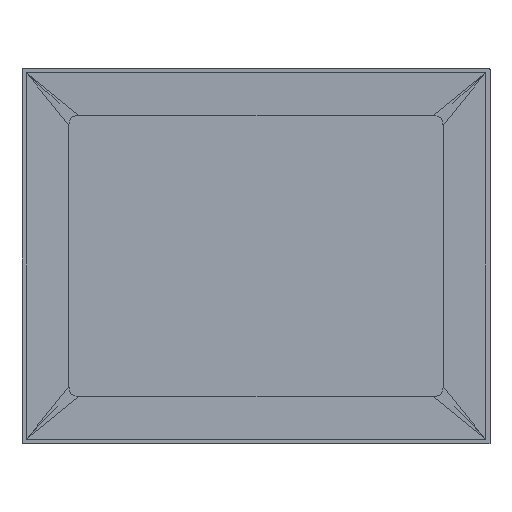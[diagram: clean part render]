
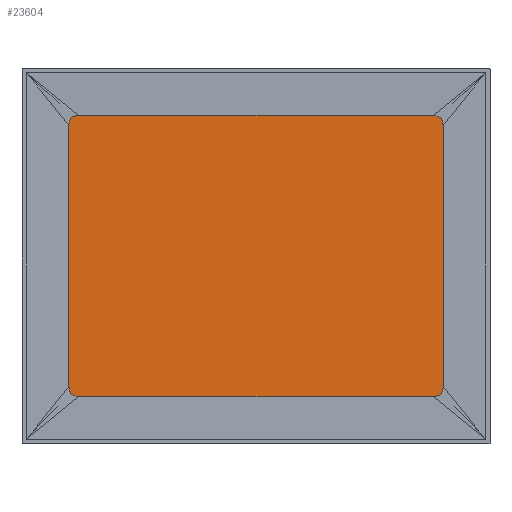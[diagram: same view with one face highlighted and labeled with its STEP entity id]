
A CAD part, top view. The second image highlights one B-rep face of the part: STEP entity #23604.
In plain terms, the highlighted planar face has unit normal (0, 0, 1).
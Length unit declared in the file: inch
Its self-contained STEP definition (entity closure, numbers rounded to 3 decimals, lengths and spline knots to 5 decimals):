
#2779=DIRECTION('',(0.,-1.,0.));
#2780=VECTOR('',#2779,8.42531);
#2781=CARTESIAN_POINT('',(6.02559,4.21265,
-0.01969));
#2782=LINE('',#2781,#2780);
#2786=CARTESIAN_POINT('',(6.02559,4.21265,
-0.01969));
#2792=CARTESIAN_POINT('',(6.02559,-4.21265,
-0.01969));
#2801=CARTESIAN_POINT('',(-6.02559,4.21265,
-0.01969));
#2806=DIRECTION('',(0.,1.,0.));
#2807=VECTOR('',#2806,8.42531);
#2808=CARTESIAN_POINT('',(-6.02559,-4.21265,
-0.01969));
#2809=LINE('',#2808,#2807);
#2813=CARTESIAN_POINT('',(-6.02559,-4.21265,
-0.01969));
#2815=CARTESIAN_POINT('',(-6.02559,4.21265,
-0.01969));
#2816=CARTESIAN_POINT('',(-6.02577,4.24255,
-0.01969));
#2817=CARTESIAN_POINT('',(-6.02185,4.2984,
-0.01969));
#2818=CARTESIAN_POINT('',(-6.00319,4.37208,
-0.01969));
#2819=CARTESIAN_POINT('',(-5.97149,4.43055,
-0.01969));
#2820=CARTESIAN_POINT('',(-5.92723,4.47495,
-0.01969));
#2821=CARTESIAN_POINT('',(-5.86859,4.50707,
-0.01969));
#2822=CARTESIAN_POINT('',(-5.79474,4.52573,
-0.01969));
#2823=CARTESIAN_POINT('',(-5.73871,4.5297,
-0.01969));
#2824=CARTESIAN_POINT('',(-5.70872,4.52953,
-0.01969));
#2826=DIRECTION('',(1.,0.,0.));
#2827=VECTOR('',#2826,11.41743);
#2828=CARTESIAN_POINT('',(-5.70872,4.52953,
-0.01969));
#2829=LINE('',#2828,#2827);
#2833=CARTESIAN_POINT('',(-5.70872,4.52953,
-0.01969));
#2839=CARTESIAN_POINT('',(5.70872,4.52953,
-0.01969));
#2844=CARTESIAN_POINT('',(5.70872,4.52953,
-0.01969));
#2845=CARTESIAN_POINT('',(5.73861,4.52971,
-0.01969));
#2846=CARTESIAN_POINT('',(5.79447,4.52579,
-0.01969));
#2847=CARTESIAN_POINT('',(5.86815,4.50713,
-0.01969));
#2848=CARTESIAN_POINT('',(5.92662,4.47543,
-0.01969));
#2849=CARTESIAN_POINT('',(5.97102,4.43117,
-0.01969));
#2850=CARTESIAN_POINT('',(6.00313,4.37252,
-0.01969));
#2851=CARTESIAN_POINT('',(6.0218,4.29867,
-0.01969));
#2852=CARTESIAN_POINT('',(6.02577,4.24265,
-0.01969));
#2853=CARTESIAN_POINT('',(6.02559,4.21265,
-0.01969));
#2855=CARTESIAN_POINT('',(-5.70872,-4.52953,
-0.01969));
#2856=CARTESIAN_POINT('',(-5.73861,-4.52971,
-0.01969));
#2857=CARTESIAN_POINT('',(-5.79447,-4.52579,
-0.01969));
#2858=CARTESIAN_POINT('',(-5.86815,-4.50713,
-0.01969));
#2859=CARTESIAN_POINT('',(-5.92662,-4.47543,
-0.01969));
#2860=CARTESIAN_POINT('',(-5.97102,-4.43117,
-0.01969));
#2861=CARTESIAN_POINT('',(-6.00313,-4.37252,
-0.01969));
#2862=CARTESIAN_POINT('',(-6.0218,-4.29867,
-0.01969));
#2863=CARTESIAN_POINT('',(-6.02577,-4.24265,
-0.01969));
#2864=CARTESIAN_POINT('',(-6.02559,-4.21265,
-0.01969));
#2866=DIRECTION('',(-1.,0.,0.));
#2867=VECTOR('',#2866,11.41743);
#2868=CARTESIAN_POINT('',(5.70872,-4.52953,
-0.01969));
#2869=LINE('',#2868,#2867);
#2873=CARTESIAN_POINT('',(5.70872,-4.52953,
-0.01969));
#2879=CARTESIAN_POINT('',(-5.70872,-4.52953,
-0.01969));
#2884=CARTESIAN_POINT('',(6.02559,-4.21265,
-0.01969));
#2885=CARTESIAN_POINT('',(6.02577,-4.24255,
-0.01969));
#2886=CARTESIAN_POINT('',(6.02185,-4.2984,
-0.01969));
#2887=CARTESIAN_POINT('',(6.00319,-4.37208,
-0.01969));
#2888=CARTESIAN_POINT('',(5.97149,-4.43055,
-0.01969));
#2889=CARTESIAN_POINT('',(5.92723,-4.47495,
-0.01969));
#2890=CARTESIAN_POINT('',(5.86859,-4.50707,
-0.01969));
#2891=CARTESIAN_POINT('',(5.79474,-4.52573,
-0.01969));
#2892=CARTESIAN_POINT('',(5.73871,-4.5297,
-0.01969));
#2893=CARTESIAN_POINT('',(5.70872,-4.52953,
-0.01969));
#21131=VERTEX_POINT('',#2839);
#21134=VERTEX_POINT('',#2833);
#21136=VERTEX_POINT('',#2813);
#21137=VERTEX_POINT('',#2801);
#21138=VERTEX_POINT('',#2792);
#21140=VERTEX_POINT('',#2786);
#21141=VERTEX_POINT('',#2879);
#21142=VERTEX_POINT('',#2873);
#23582=CARTESIAN_POINT('',(-6.02559,-4.52953,
-0.01969));
#23583=DIRECTION('',(0.,0.,1.));
#23584=DIRECTION('',(1.,0.,0.));
#23585=AXIS2_PLACEMENT_3D('',#23582,#23583,#23584);
#23586=PLANE('',#23585);
#23588=ORIENTED_EDGE('',*,*,#23587,.T.);
#23590=ORIENTED_EDGE('',*,*,#23589,.T.);
#23592=ORIENTED_EDGE('',*,*,#23591,.T.);
#23594=ORIENTED_EDGE('',*,*,#23593,.T.);
#23595=ORIENTED_EDGE('',*,*,#23572,.T.);
#23597=ORIENTED_EDGE('',*,*,#23596,.T.);
#23599=ORIENTED_EDGE('',*,*,#23598,.T.);
#23601=ORIENTED_EDGE('',*,*,#23600,.T.);
#23602=EDGE_LOOP('',(#23588,#23590,#23592,#23594,#23595,#23597,#23599,#23601));
#23603=FACE_OUTER_BOUND('',#23602,.F.);
#23604=ADVANCED_FACE('',(#23603),#23586,.T.);
#2825=B_SPLINE_CURVE_WITH_KNOTS('',3,(#2815,#2816,#2817,#2818,#2819,#2820,#2821,
#2822,#2823,#2824),.UNSPECIFIED.,.F.,.F.,(4,1,1,1,1,1,1,4),(0.,
0.14286,0.28571,0.42857,0.57143,
0.71429,0.85714,1.),.UNSPECIFIED.);
#2854=B_SPLINE_CURVE_WITH_KNOTS('',3,(#2844,#2845,#2846,#2847,#2848,#2849,#2850,
#2851,#2852,#2853),.UNSPECIFIED.,.F.,.F.,(4,1,1,1,1,1,1,4),(0.,
0.14286,0.28571,0.42857,0.57143,
0.71429,0.85714,1.),.UNSPECIFIED.);
#2865=B_SPLINE_CURVE_WITH_KNOTS('',3,(#2855,#2856,#2857,#2858,#2859,#2860,#2861,
#2862,#2863,#2864),.UNSPECIFIED.,.F.,.F.,(4,1,1,1,1,1,1,4),(0.,
0.14286,0.28571,0.42857,0.57143,
0.71429,0.85714,1.),.UNSPECIFIED.);
#2894=B_SPLINE_CURVE_WITH_KNOTS('',3,(#2884,#2885,#2886,#2887,#2888,#2889,#2890,
#2891,#2892,#2893),.UNSPECIFIED.,.F.,.F.,(4,1,1,1,1,1,1,4),(0.,
0.14286,0.28571,0.42857,0.57143,
0.71429,0.85714,1.),.UNSPECIFIED.);
#23572=EDGE_CURVE('',#21140,#21138,#2782,.T.);
#23587=EDGE_CURVE('',#21136,#21137,#2809,.T.);
#23589=EDGE_CURVE('',#21137,#21134,#2825,.T.);
#23591=EDGE_CURVE('',#21134,#21131,#2829,.T.);
#23593=EDGE_CURVE('',#21131,#21140,#2854,.T.);
#23596=EDGE_CURVE('',#21138,#21142,#2894,.T.);
#23598=EDGE_CURVE('',#21142,#21141,#2869,.T.);
#23600=EDGE_CURVE('',#21141,#21136,#2865,.T.);
